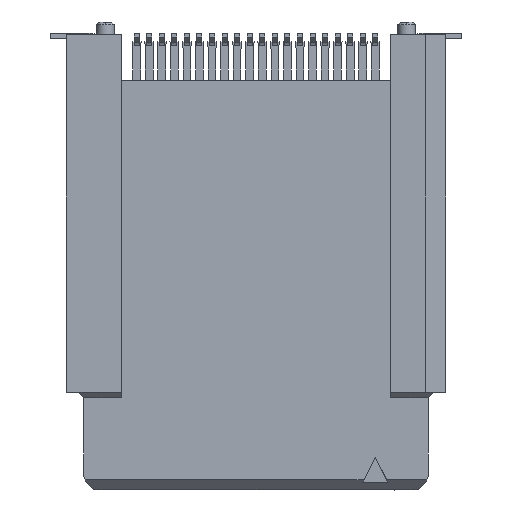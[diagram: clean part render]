
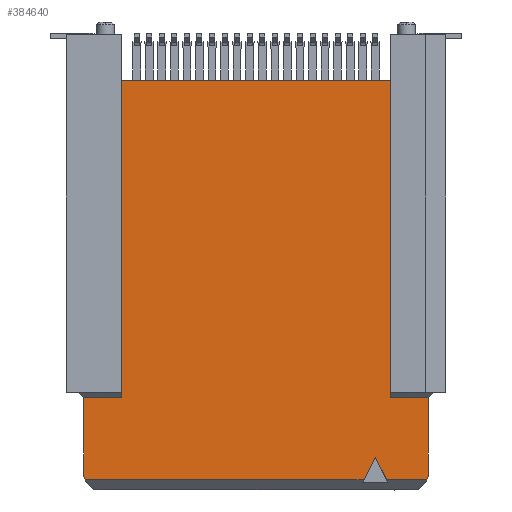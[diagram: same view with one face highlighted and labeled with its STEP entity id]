
A CAD part, front view. The second image highlights one B-rep face of the part: STEP entity #384640.
In plain terms, the highlighted planar face has unit normal (0, -1, 0).
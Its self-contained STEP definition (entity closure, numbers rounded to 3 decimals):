
#120=CARTESIAN_POINT('',(-7.43,-1.54,
-7.162));
#130=VERTEX_POINT('',#120);
#160=CARTESIAN_POINT('',(-7.43,-1.54,
-2.5));
#170=DIRECTION('',(0.,0.,-1.));
#180=VECTOR('',#170,1.);
#190=LINE('',#160,#180);
#200=CARTESIAN_POINT('',(-7.43,-1.54,
-17.882));
#210=VERTEX_POINT('',#200);
#220=EDGE_CURVE('',#130,#210,#190,.T.);
#2340=CARTESIAN_POINT('',(8.88,-1.54,
-5.662));
#2350=DIRECTION('',(-1.,0.,0.));
#2360=VECTOR('',#2350,1.);
#2370=LINE('',#2340,#2360);
#2380=CARTESIAN_POINT('',(8.33,-1.54,
-5.662));
#2390=VERTEX_POINT('',#2380);
#2400=CARTESIAN_POINT('',(5.2,-1.54,
-5.662));
#2410=VERTEX_POINT('',#2400);
#2420=EDGE_CURVE('',#2390,#2410,#2370,.T.);
#93850=CARTESIAN_POINT('',(7.58,-1.54,
-7.772));
#93860=VERTEX_POINT('',#93850);
#94030=CARTESIAN_POINT('',(8.48,-1.54,
-8.222));
#94040=VERTEX_POINT('',#94030);
#94070=CARTESIAN_POINT('',(0.,-1.54,
-3.982));
#94080=DIRECTION('',(0.894,0.,
-0.447));
#94090=VECTOR('',#94080,1.);
#94100=LINE('',#94070,#94090);
#94110=EDGE_CURVE('',#93860,#94040,#94100,.T.);
#176400=CARTESIAN_POINT('',(5.2,-1.54,
-6.412));
#176410=DIRECTION('',(0.,0.,1.));
#176420=VECTOR('',#176410,1.);
#176430=LINE('',#176400,#176420);
#176440=CARTESIAN_POINT('',(5.2,-1.54,
-7.162));
#176450=VERTEX_POINT('',#176440);
#176460=EDGE_CURVE('',#176450,#2410,#176430,.T.);
#208440=CARTESIAN_POINT('',(0.,-1.54,
-7.162));
#208450=DIRECTION('',(-1.,0.,0.));
#208460=VECTOR('',#208450,1.);
#208470=LINE('',#208440,#208460);
#208480=EDGE_CURVE('',#176450,#130,#208470,.T.);
#249170=CARTESIAN_POINT('',(8.48,-1.54,
-5.722));
#249180=VERTEX_POINT('',#249170);
#249210=CARTESIAN_POINT('',(1.,-1.54,
-2.73));
#249220=DIRECTION('',(0.928,0.,
-0.371));
#249230=VECTOR('',#249220,1.);
#249240=LINE('',#249210,#249230);
#249250=EDGE_CURVE('',#2390,#249180,#249240,.T.);
#261770=CARTESIAN_POINT('',(0.,-1.54,
-11.562));
#261780=DIRECTION('',(-0.894,0.,
-0.447));
#261790=VECTOR('',#261780,1.);
#261800=LINE('',#261770,#261790);
#261810=CARTESIAN_POINT('',(8.48,-1.54,
-7.322));
#261820=VERTEX_POINT('',#261810);
#261830=EDGE_CURVE('',#261820,#93860,#261800,.T.);
#383710=CARTESIAN_POINT('',(0.,-1.54,
-17.882));
#383720=DIRECTION('',(1.,0.,0.));
#383730=VECTOR('',#383720,1.);
#383740=LINE('',#383710,#383730);
#383750=CARTESIAN_POINT('',(5.2,-1.54,
-17.882));
#383760=VERTEX_POINT('',#383750);
#383770=EDGE_CURVE('',#210,#383760,#383740,.T.);
#384130=CARTESIAN_POINT('',(-2.93,-1.54,
-0.022));
#384140=DIRECTION('',(0.,-1.,0.));
#384150=DIRECTION('',(1.,0.,0.));
#384160=AXIS2_PLACEMENT_3D('',#384130,#384140,#384150);
#384170=PLANE('',#384160);
#384180=CARTESIAN_POINT('',(1.,-1.54,
-22.314));
#384190=DIRECTION('',(0.928,0.,
0.371));
#384200=VECTOR('',#384190,1.);
#384210=LINE('',#384180,#384200);
#384220=CARTESIAN_POINT('',(8.33,-1.54,
-19.382));
#384230=VERTEX_POINT('',#384220);
#384240=CARTESIAN_POINT('',(8.48,-1.54,
-19.322));
#384250=VERTEX_POINT('',#384240);
#384260=EDGE_CURVE('',#384230,#384250,#384210,.T.);
#384270=ORIENTED_EDGE('',*,*,#384260,.T.);
#384280=CARTESIAN_POINT('',(8.88,-1.54,
-19.382));
#384290=DIRECTION('',(-1.,0.,0.));
#384300=VECTOR('',#384290,1.);
#384310=LINE('',#384280,#384300);
#384320=CARTESIAN_POINT('',(5.2,-1.54,
-19.382));
#384330=VERTEX_POINT('',#384320);
#384340=EDGE_CURVE('',#384230,#384330,#384310,.T.);
#384350=ORIENTED_EDGE('',*,*,#384340,.F.);
#384360=CARTESIAN_POINT('',(5.2,-1.54,
-18.632));
#384370=DIRECTION('',(0.,0.,-1.));
#384380=VECTOR('',#384370,1.);
#384390=LINE('',#384360,#384380);
#384400=EDGE_CURVE('',#383760,#384330,#384390,.T.);
#384410=ORIENTED_EDGE('',*,*,#384400,.T.);
#384420=ORIENTED_EDGE('',*,*,#383770,.T.);
#384430=ORIENTED_EDGE('',*,*,#220,.T.);
#384440=ORIENTED_EDGE('',*,*,#208480,.T.);
#384450=ORIENTED_EDGE('',*,*,#176460,.F.);
#384460=ORIENTED_EDGE('',*,*,#2420,.T.);
#384470=ORIENTED_EDGE('',*,*,#249250,.F.);
#384480=CARTESIAN_POINT('',(8.48,-1.54,
-29.452));
#384490=DIRECTION('',(0.,0.,-1.));
#384500=VECTOR('',#384490,1.);
#384510=LINE('',#384480,#384500);
#384520=EDGE_CURVE('',#249180,#261820,#384510,.T.);
#384530=ORIENTED_EDGE('',*,*,#384520,.F.);
#384540=ORIENTED_EDGE('',*,*,#261830,.F.);
#384550=ORIENTED_EDGE('',*,*,#94110,.F.);
#384560=CARTESIAN_POINT('',(8.48,-1.54,
-4.452));
#384570=DIRECTION('',(0.,0.,-1.));
#384580=VECTOR('',#384570,1.);
#384590=LINE('',#384560,#384580);
#384600=EDGE_CURVE('',#94040,#384250,#384590,.T.);
#384610=ORIENTED_EDGE('',*,*,#384600,.F.);
#384620=EDGE_LOOP('',(#384610,#384550,#384540,#384530,#384470,#384460,
#384450,#384440,#384430,#384420,#384410,#384350,#384270));
#384630=FACE_OUTER_BOUND('',#384620,.T.);
#384640=ADVANCED_FACE('',(#384630),#384170,.T.);
